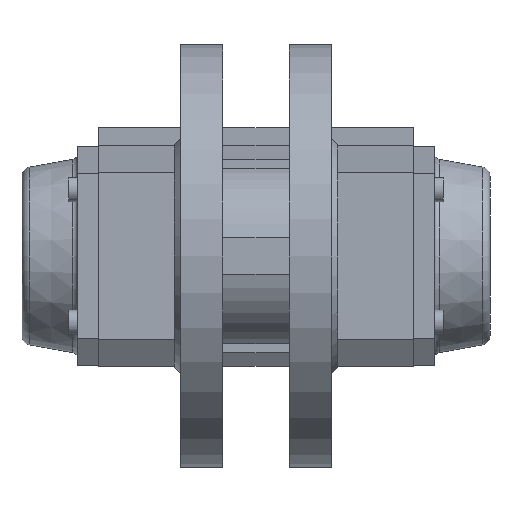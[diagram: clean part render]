
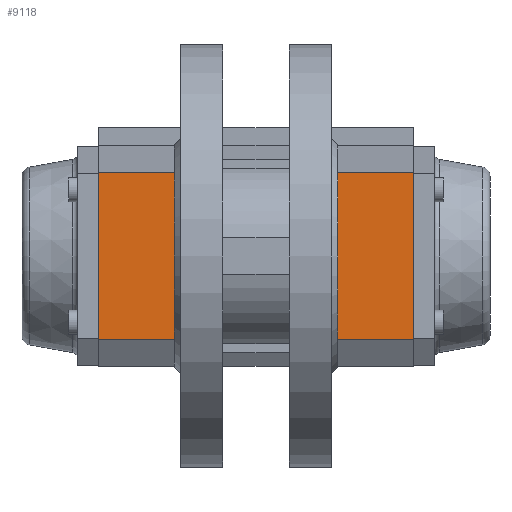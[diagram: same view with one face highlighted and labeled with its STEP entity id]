
A CAD part, front view. The second image highlights one B-rep face of the part: STEP entity #9118.
In plain terms, the highlighted planar face has unit normal (0, -1, 0).
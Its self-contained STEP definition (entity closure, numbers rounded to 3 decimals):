
#1395 = CARTESIAN_POINT ( 'NONE',  ( 14.849, -41.5, -14.849 ) ) ;
#1396 = DIRECTION ( 'NONE',  ( 0., -1., 0. ) ) ;
#1397 = DIRECTION ( 'NONE',  ( 0., 0., -1. ) ) ;
#1398 = CARTESIAN_POINT ( 'NONE',  ( -14.849, -41.5, -14.849 ) ) ;
#1399 = DIRECTION ( 'NONE',  ( 0., -1., 0. ) ) ;
#1400 = DIRECTION ( 'NONE',  ( 0., 0., -1. ) ) ;
#1401 = CARTESIAN_POINT ( 'NONE',  ( -14.849, -41.5, 14.849 ) ) ;
#1402 = DIRECTION ( 'NONE',  ( 0., -1., 0. ) ) ;
#1403 = DIRECTION ( 'NONE',  ( 0., 0., -1. ) ) ;
#1418 = CARTESIAN_POINT ( 'NONE',  ( 0., -41.5, 0. ) ) ;
#1419 = DIRECTION ( 'NONE',  ( 0., -1., 0. ) ) ;
#1420 = DIRECTION ( 'NONE',  ( 0., 0., -1. ) ) ;
#1421 = LINE ( 'NONE', #1435, #4338 ) ;
#1432 = LINE ( 'NONE', #1440, #4332 ) ;
#1435 = CARTESIAN_POINT ( 'NONE',  ( -27.5, -41.5, 52. ) ) ;
#1437 = DIRECTION ( 'NONE',  ( 1., 0., 0. ) ) ;
#1440 = CARTESIAN_POINT ( 'NONE',  ( -27.5, -41.5, -52. ) ) ;
#1441 = DIRECTION ( 'NONE',  ( 0., 0., 1. ) ) ;
#1444 = LINE ( 'NONE', #1446, #4329 ) ;
#1446 = CARTESIAN_POINT ( 'NONE',  ( -27.5, -41.5, -52. ) ) ;
#1447 = DIRECTION ( 'NONE',  ( 1., 0., 0. ) ) ;
#1472 = CARTESIAN_POINT ( 'NONE',  ( -14.849, -41.5, -14.849 ) ) ;
#1473 = DIRECTION ( 'NONE',  ( 0., -1., 0. ) ) ;
#1474 = DIRECTION ( 'NONE',  ( 0., 0., -1. ) ) ;
#1617 = CARTESIAN_POINT ( 'NONE',  ( -14.849, -41.5, 14.849 ) ) ;
#1618 = DIRECTION ( 'NONE',  ( 0., -1., 0. ) ) ;
#1619 = DIRECTION ( 'NONE',  ( 0., 0., -1. ) ) ;
#1659 = CARTESIAN_POINT ( 'NONE',  ( 0., -41.5, 0. ) ) ;
#1660 = DIRECTION ( 'NONE',  ( 0., -1., 0. ) ) ;
#1661 = DIRECTION ( 'NONE',  ( 0., 0., -1. ) ) ;
#1769 = CARTESIAN_POINT ( 'NONE',  ( 14.849, -41.5, 14.849 ) ) ;
#1770 = DIRECTION ( 'NONE',  ( 0., -1., 0. ) ) ;
#1771 = DIRECTION ( 'NONE',  ( 0., 0., -1. ) ) ;
#1854 = CARTESIAN_POINT ( 'NONE',  ( 14.849, -41.5, -14.849 ) ) ;
#1855 = DIRECTION ( 'NONE',  ( 0., -1., 0. ) ) ;
#1856 = DIRECTION ( 'NONE',  ( 0., 0., -1. ) ) ;
#1972 = CARTESIAN_POINT ( 'NONE',  ( 14.849, -41.5, 14.849 ) ) ;
#1973 = DIRECTION ( 'NONE',  ( 0., -1., 0. ) ) ;
#1974 = DIRECTION ( 'NONE',  ( 0., 0., -1. ) ) ;
#2103 = LINE ( 'NONE', #2124, #3969 ) ;
#2124 = CARTESIAN_POINT ( 'NONE',  ( 27.5, -41.5, -52. ) ) ;
#2125 = DIRECTION ( 'NONE',  ( 0., 0., 1. ) ) ;
#2581 = EDGE_LOOP ( 'NONE', ( #2706, #2705 ) ) ;
#2582 = EDGE_LOOP ( 'NONE', ( #2702, #2701 ) ) ;
#2695 = ORIENTED_EDGE ( 'NONE', *, *, #11843, .T. ) ;
#2696 = ORIENTED_EDGE ( 'NONE', *, *, #11840, .F. ) ;
#2697 = ORIENTED_EDGE ( 'NONE', *, *, #11835, .F. ) ;
#2698 = ORIENTED_EDGE ( 'NONE', *, *, #12122, .T. ) ;
#2699 = ORIENTED_EDGE ( 'NONE', *, *, #11961, .F. ) ;
#2700 = ORIENTED_EDGE ( 'NONE', *, *, #11826, .F. ) ;
#2701 = ORIENTED_EDGE ( 'NONE', *, *, #11938, .F. ) ;
#2702 = ORIENTED_EDGE ( 'NONE', *, *, #11819, .F. ) ;
#2703 = ORIENTED_EDGE ( 'NONE', *, *, #11854, .F. ) ;
#2704 = ORIENTED_EDGE ( 'NONE', *, *, #11817, .F. ) ;
#2705 = ORIENTED_EDGE ( 'NONE', *, *, #12033, .F. ) ;
#2706 = ORIENTED_EDGE ( 'NONE', *, *, #11816, .F. ) ;
#2707 = ORIENTED_EDGE ( 'NONE', *, *, #12005, .F. ) ;
#2708 = ORIENTED_EDGE ( 'NONE', *, *, #12071, .F. ) ;
#2851 = VERTEX_POINT ( 'NONE', #4841 ) ;
#2852 = VERTEX_POINT ( 'NONE', #4842 ) ;
#2876 = VERTEX_POINT ( 'NONE', #4866 ) ;
#2877 = VERTEX_POINT ( 'NONE', #4867 ) ;
#2881 = VERTEX_POINT ( 'NONE', #4871 ) ;
#2882 = VERTEX_POINT ( 'NONE', #4872 ) ;
#2886 = VERTEX_POINT ( 'NONE', #4876 ) ;
#2887 = VERTEX_POINT ( 'NONE', #4877 ) ;
#2891 = VERTEX_POINT ( 'NONE', #4881 ) ;
#2892 = VERTEX_POINT ( 'NONE', #4882 ) ;
#3615 = VERTEX_POINT ( 'NONE', #4936 ) ;
#3616 = VERTEX_POINT ( 'NONE', #4940 ) ;
#3617 = VERTEX_POINT ( 'NONE', #4937 ) ;
#3679 = VERTEX_POINT ( 'NONE', #5002 ) ;
#3969 = VECTOR ( 'NONE', #2125, 1000. ) ;
#4045 = AXIS2_PLACEMENT_3D ( 'NONE', #1972, #1973, #1974 ) ;
#4052 = CIRCLE ( 'NONE', #4045, 2.1 ) ;
#4103 = AXIS2_PLACEMENT_3D ( 'NONE', #1854, #1855, #1856 ) ;
#4105 = CIRCLE ( 'NONE', #4103, 2.1 ) ;
#4155 = AXIS2_PLACEMENT_3D ( 'NONE', #1769, #1770, #1771 ) ;
#4158 = CIRCLE ( 'NONE', #4155, 2.1 ) ;
#4213 = AXIS2_PLACEMENT_3D ( 'NONE', #1659, #1660, #1661 ) ;
#4217 = CIRCLE ( 'NONE', #4213, 15. ) ;
#4234 = AXIS2_PLACEMENT_3D ( 'NONE', #1617, #1618, #1619 ) ;
#4236 = CIRCLE ( 'NONE', #4234, 2.1 ) ;
#4316 = AXIS2_PLACEMENT_3D ( 'NONE', #1472, #1473, #1474 ) ;
#4319 = CIRCLE ( 'NONE', #4316, 2.1 ) ;
#4329 = VECTOR ( 'NONE', #1447, 1000. ) ;
#4332 = VECTOR ( 'NONE', #1441, 1000. ) ;
#4338 = VECTOR ( 'NONE', #1437, 1000. ) ;
#4341 = AXIS2_PLACEMENT_3D ( 'NONE', #1418, #1419, #1420 ) ;
#4346 = CIRCLE ( 'NONE', #4341, 15. ) ;
#4349 = AXIS2_PLACEMENT_3D ( 'NONE', #1401, #1402, #1403 ) ;
#4351 = AXIS2_PLACEMENT_3D ( 'NONE', #1398, #1399, #1400 ) ;
#4353 = AXIS2_PLACEMENT_3D ( 'NONE', #1395, #1396, #1397 ) ;
#4354 = CIRCLE ( 'NONE', #4349, 2.1 ) ;
#4355 = CIRCLE ( 'NONE', #4351, 2.1 ) ;
#4358 = CIRCLE ( 'NONE', #4353, 2.1 ) ;
#4841 = CARTESIAN_POINT ( 'NONE',  ( 0., -41.5, -15. ) ) ;
#4842 = CARTESIAN_POINT ( 'NONE',  ( 0., -41.5, 15. ) ) ;
#4866 = CARTESIAN_POINT ( 'NONE',  ( -14.849, -41.5, 12.749 ) ) ;
#4867 = CARTESIAN_POINT ( 'NONE',  ( -14.849, -41.5, 16.949 ) ) ;
#4871 = CARTESIAN_POINT ( 'NONE',  ( -14.849, -41.5, -16.949 ) ) ;
#4872 = CARTESIAN_POINT ( 'NONE',  ( -14.849, -41.5, -12.749 ) ) ;
#4876 = CARTESIAN_POINT ( 'NONE',  ( 14.849, -41.5, -16.949 ) ) ;
#4877 = CARTESIAN_POINT ( 'NONE',  ( 14.849, -41.5, -12.749 ) ) ;
#4881 = CARTESIAN_POINT ( 'NONE',  ( 14.849, -41.5, 12.749 ) ) ;
#4882 = CARTESIAN_POINT ( 'NONE',  ( 14.849, -41.5, 16.949 ) ) ;
#4936 = CARTESIAN_POINT ( 'NONE',  ( -27.5, -41.5, 52. ) ) ;
#4937 = CARTESIAN_POINT ( 'NONE',  ( -27.5, -41.5, -52. ) ) ;
#4940 = CARTESIAN_POINT ( 'NONE',  ( 27.5, -41.5, -52. ) ) ;
#5002 = CARTESIAN_POINT ( 'NONE',  ( 27.5, -41.5, 52. ) ) ;
#9118 = ADVANCED_FACE ( 'NONE', ( #12642, #12636, #12645, #12647, #12641, #12643 ), #12644, .T. ) ;
#10734 = AXIS2_PLACEMENT_3D ( 'NONE', #12648, #12649, #12650 ) ;
#11816 = EDGE_CURVE ( 'NONE', #2886, #2887, #4358, .T. ) ;
#11817 = EDGE_CURVE ( 'NONE', #2881, #2882, #4355, .T. ) ;
#11819 = EDGE_CURVE ( 'NONE', #2876, #2877, #4354, .T. ) ;
#11826 = EDGE_CURVE ( 'NONE', #2851, #2852, #4346, .T. ) ;
#11835 = EDGE_CURVE ( 'NONE', #3615, #3679, #1421, .T. ) ;
#11840 = EDGE_CURVE ( 'NONE', #3617, #3615, #1432, .T. ) ;
#11843 = EDGE_CURVE ( 'NONE', #3617, #3616, #1444, .T. ) ;
#11854 = EDGE_CURVE ( 'NONE', #2882, #2881, #4319, .T. ) ;
#11938 = EDGE_CURVE ( 'NONE', #2877, #2876, #4236, .T. ) ;
#11961 = EDGE_CURVE ( 'NONE', #2852, #2851, #4217, .T. ) ;
#12005 = EDGE_CURVE ( 'NONE', #2892, #2891, #4158, .T. ) ;
#12033 = EDGE_CURVE ( 'NONE', #2887, #2886, #4105, .T. ) ;
#12071 = EDGE_CURVE ( 'NONE', #2891, #2892, #4052, .T. ) ;
#12122 = EDGE_CURVE ( 'NONE', #3616, #3679, #2103, .T. ) ;
#12636 = FACE_BOUND ( 'NONE', #2581, .T. ) ;
#12641 = FACE_BOUND ( 'NONE', #13027, .T. ) ;
#12642 = FACE_BOUND ( 'NONE', #13043, .T. ) ;
#12643 = FACE_OUTER_BOUND ( 'NONE', #13029, .T. ) ;
#12644 = PLANE ( 'NONE',  #10734 ) ;
#12645 = FACE_BOUND ( 'NONE', #13030, .T. ) ;
#12647 = FACE_BOUND ( 'NONE', #2582, .T. ) ;
#12648 = CARTESIAN_POINT ( 'NONE',  ( -27.5, -41.5, -52. ) ) ;
#12649 = DIRECTION ( 'NONE',  ( 0., -1., 0. ) ) ;
#12650 = DIRECTION ( 'NONE',  ( 0., 0., -1. ) ) ;
#13027 = EDGE_LOOP ( 'NONE', ( #2700, #2699 ) ) ;
#13029 = EDGE_LOOP ( 'NONE', ( #2698, #2697, #2696, #2695 ) ) ;
#13030 = EDGE_LOOP ( 'NONE', ( #2704, #2703 ) ) ;
#13043 = EDGE_LOOP ( 'NONE', ( #2708, #2707 ) ) ;
